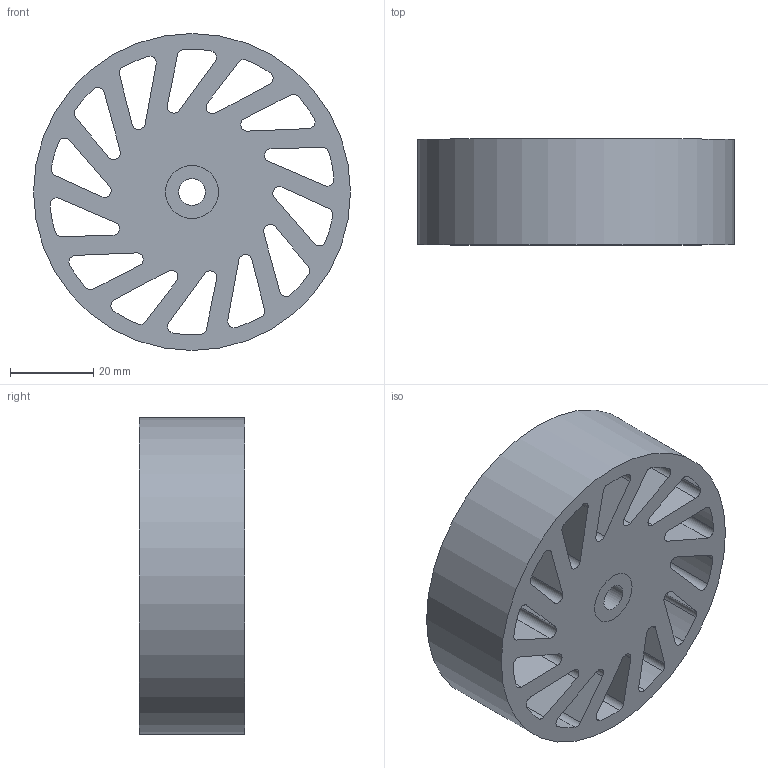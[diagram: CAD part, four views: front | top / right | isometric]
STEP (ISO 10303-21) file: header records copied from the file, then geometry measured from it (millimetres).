
FILE_DESCRIPTION(/* description */ (''),/* implementation_level */ '2;1');
FILE_NAME(/* name */ 'C:\Users\Owner\Desktop\Meridian Stuff\Oilite\NCWOB-640-XXX.stp',/* time_stamp */ '2023-05-22T16:36:47-05:00',/* author */ ('ASG'),/* organization */ ('Meridian Laboratory '),/* preprocessor_version */ 'ST-DEVELOPER v19',/* originating_system */ 'Autodesk Inventor 2023',/* authorisation */ '');
FILE_SCHEMA (('AUTOMOTIVE_DESIGN { 1 0 10303 214 3 1 1 }'));
Length unit declared in the file: inch
Products named in the file (1): NCWOB-640-XXX
Bounding box: 76.2 x 25.4 x 76.2 mm (x, y, z)
Volume: 79680.5 mm3; surface area: 30267.8 mm2
Topology: 2 solids, 2 shells, 92 faces, 264 edges, 176 vertices
Faces by surface type: cylinder 60, plane 32
Full cylindrical faces by diameter (mm): 6.401 x1, 12.7 x2, 76.2 x1
Entity records: 3285 total; most frequent: DIRECTION 570, CARTESIAN_POINT 533, ORIENTED_EDGE 528, EDGE_CURVE 264, AXIS2_PLACEMENT_3D 213, VERTEX_POINT 176, LINE 144, VECTOR 144
